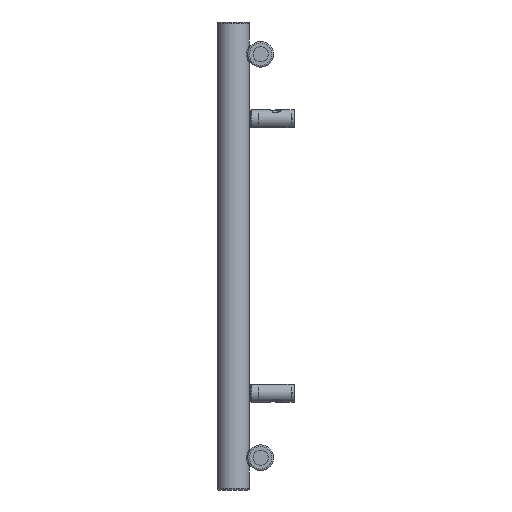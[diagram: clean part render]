
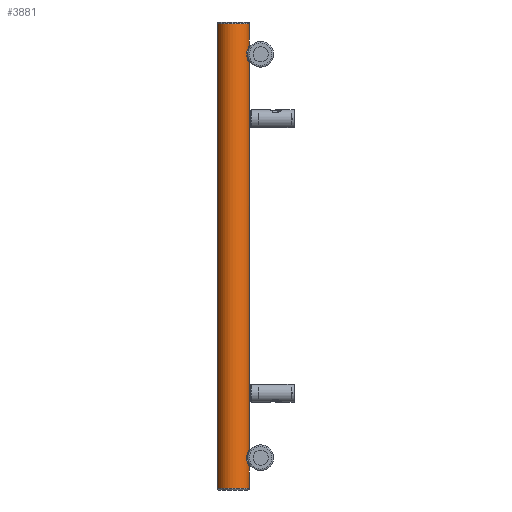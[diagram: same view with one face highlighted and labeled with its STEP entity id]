
A CAD part, left-side view. The second image highlights one B-rep face of the part: STEP entity #3881.
In plain terms, the highlighted cylindrical face has radius 20 mm (diameter 40 mm), a full revolution.
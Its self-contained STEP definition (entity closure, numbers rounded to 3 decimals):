
#296=FACE_BOUND('',#934,.T.);
#297=FACE_BOUND('',#935,.T.);
#349=LINE('',#10610,#442);
#442=VECTOR('',#4883,20.);
#535=CYLINDRICAL_SURFACE('',#4223,20.);
#608=FACE_OUTER_BOUND('',#933,.T.);
#933=EDGE_LOOP('',(#2858,#2859,#2860,#2861,#2862));
#934=EDGE_LOOP('',(#2863));
#935=EDGE_LOOP('',(#2864));
#1262=B_SPLINE_CURVE_WITH_KNOTS('',3,(#10585,#10586,#10587,#10588,#10589,
#10590,#10591,#10592,#10593,#10594,#10595,#10596,#10597,#10598,#10599,#10600,
#10601,#10602,#10603,#10604),.UNSPECIFIED.,.T.,.F.,(4,1,1,1,1,1,1,1,1,1,
1,1,1,1,1,1,1,4),(-5.132,-4.765,-4.399,
-4.154,-3.91,-3.666,-3.421,-3.177,
-2.933,-2.444,-2.199,-1.955,-1.711,
-1.466,-1.1,-0.733,-0.367,
0.),.UNSPECIFIED.);
#1263=B_SPLINE_CURVE_WITH_KNOTS('',3,(#10614,#10615,#10616,#10617,#10618,
#10619,#10620,#10621,#10622,#10623,#10624,#10625,#10626,#10627,#10628,#10629,
#10630,#10631),.UNSPECIFIED.,.T.,.F.,(4,1,1,1,1,1,1,1,1,1,1,1,1,1,1,4),
(-5.132,-4.765,-4.399,-3.91,
-3.666,-3.421,-3.177,-2.933,
-2.444,-2.199,-1.955,-1.466,-1.1,
-0.733,-0.367,0.),.UNSPECIFIED.);
#1379=CIRCLE('',#4224,20.);
#1380=CIRCLE('',#4225,20.);
#1381=CIRCLE('',#4226,20.);
#1763=VERTEX_POINT('',#10583);
#1764=VERTEX_POINT('',#10606);
#1765=VERTEX_POINT('',#10607);
#1766=VERTEX_POINT('',#10609);
#1767=VERTEX_POINT('',#10613);
#2193=EDGE_CURVE('',#1763,#1763,#1262,.T.);
#2194=EDGE_CURVE('',#1764,#1765,#1379,.T.);
#2195=EDGE_CURVE('',#1764,#1766,#349,.T.);
#2196=EDGE_CURVE('',#1766,#1766,#1380,.T.);
#2197=EDGE_CURVE('',#1765,#1764,#1381,.T.);
#2198=EDGE_CURVE('',#1767,#1767,#1263,.T.);
#2858=ORIENTED_EDGE('',*,*,#2194,.F.);
#2859=ORIENTED_EDGE('',*,*,#2195,.T.);
#2860=ORIENTED_EDGE('',*,*,#2196,.F.);
#2861=ORIENTED_EDGE('',*,*,#2195,.F.);
#2862=ORIENTED_EDGE('',*,*,#2197,.F.);
#2863=ORIENTED_EDGE('',*,*,#2198,.F.);
#2864=ORIENTED_EDGE('',*,*,#2193,.F.);
#3881=ADVANCED_FACE('',(#608,#296,#297),#535,.T.);
#4223=AXIS2_PLACEMENT_3D('',#10605,#4879,#4880);
#4224=AXIS2_PLACEMENT_3D('',#10608,#4881,#4882);
#4225=AXIS2_PLACEMENT_3D('',#10611,#4884,#4885);
#4226=AXIS2_PLACEMENT_3D('',#10612,#4886,#4887);
#4879=DIRECTION('center_axis',(0.,0.,1.));
#4880=DIRECTION('ref_axis',(-1.,0.,0.));
#4881=DIRECTION('center_axis',(0.,0.,1.));
#4882=DIRECTION('ref_axis',(-1.,0.,0.));
#4883=DIRECTION('',(0.,0.,-1.));
#4884=DIRECTION('center_axis',(0.,0.,-1.));
#4885=DIRECTION('ref_axis',(-1.,0.,0.));
#4886=DIRECTION('center_axis',(0.,0.,1.));
#4887=DIRECTION('ref_axis',(-1.,0.,0.));
#10583=CARTESIAN_POINT('',(-1155.,-20.,50.1));
#10585=CARTESIAN_POINT('Ctrl Pts',(-1155.,-20.,50.1));
#10586=CARTESIAN_POINT('Ctrl Pts',(-1156.611,-20.,50.1));
#10587=CARTESIAN_POINT('Ctrl Pts',(-1159.838,-19.598,
49.588));
#10588=CARTESIAN_POINT('Ctrl Pts',(-1163.412,-18.224,47.308));
#10589=CARTESIAN_POINT('Ctrl Pts',(-1165.38,-17.113,
44.116));
#10590=CARTESIAN_POINT('Ctrl Pts',(-1166.115,-16.627,
40.853));
#10591=CARTESIAN_POINT('Ctrl Pts',(-1165.87,-16.794,
37.475));
#10592=CARTESIAN_POINT('Ctrl Pts',(-1164.649,-17.556,
34.43));
#10593=CARTESIAN_POINT('Ctrl Pts',(-1162.535,-18.59,32.082));
#10594=CARTESIAN_POINT('Ctrl Pts',(-1158.836,-19.821,
30.088));
#10595=CARTESIAN_POINT('Ctrl Pts',(-1154.419,-20.203,
29.641));
#10596=CARTESIAN_POINT('Ctrl Pts',(-1150.24,-19.504,30.58));
#10597=CARTESIAN_POINT('Ctrl Pts',(-1147.467,-18.593,32.084));
#10598=CARTESIAN_POINT('Ctrl Pts',(-1145.351,-17.554,
34.428));
#10599=CARTESIAN_POINT('Ctrl Pts',(-1143.928,-16.664,
37.98));
#10600=CARTESIAN_POINT('Ctrl Pts',(-1143.923,-16.659,
42.598));
#10601=CARTESIAN_POINT('Ctrl Pts',(-1146.135,-18.048,
47.029));
#10602=CARTESIAN_POINT('Ctrl Pts',(-1150.165,-19.6,49.585));
#10603=CARTESIAN_POINT('Ctrl Pts',(-1153.389,-20.,50.1));
#10604=CARTESIAN_POINT('Ctrl Pts',(-1155.,-20.,50.1));
#10605=CARTESIAN_POINT('Origin',(-1155.,0.,0.));
#10606=CARTESIAN_POINT('',(-1135.,0.,578.));
#10607=CARTESIAN_POINT('',(-1175.,0.,578.));
#10608=CARTESIAN_POINT('Origin',(-1155.,0.,578.));
#10609=CARTESIAN_POINT('',(-1135.,0.,2.));
#10610=CARTESIAN_POINT('',(-1135.,0.,0.));
#10611=CARTESIAN_POINT('Origin',(-1155.,0.,2.));
#10612=CARTESIAN_POINT('Origin',(-1155.,0.,578.));
#10613=CARTESIAN_POINT('',(-1155.,-20.,550.1));
#10614=CARTESIAN_POINT('Ctrl Pts',(-1155.,-20.,550.1));
#10615=CARTESIAN_POINT('Ctrl Pts',(-1156.611,-20.,550.1));
#10616=CARTESIAN_POINT('Ctrl Pts',(-1159.83,-19.611,
549.58));
#10617=CARTESIAN_POINT('Ctrl Pts',(-1164.319,-17.859,
546.751));
#10618=CARTESIAN_POINT('Ctrl Pts',(-1166.21,-16.549,
541.99));
#10619=CARTESIAN_POINT('Ctrl Pts',(-1165.866,-16.8,
537.471));
#10620=CARTESIAN_POINT('Ctrl Pts',(-1164.651,-17.553,
534.431));
#10621=CARTESIAN_POINT('Ctrl Pts',(-1162.534,-18.59,
532.081));
#10622=CARTESIAN_POINT('Ctrl Pts',(-1158.838,-19.82,
530.089));
#10623=CARTESIAN_POINT('Ctrl Pts',(-1154.416,-20.202,
529.636));
#10624=CARTESIAN_POINT('Ctrl Pts',(-1150.244,-19.505,
530.585));
#10625=CARTESIAN_POINT('Ctrl Pts',(-1146.526,-18.282,532.562));
#10626=CARTESIAN_POINT('Ctrl Pts',(-1143.913,-16.657,
536.802));
#10627=CARTESIAN_POINT('Ctrl Pts',(-1143.931,-16.662,
542.609));
#10628=CARTESIAN_POINT('Ctrl Pts',(-1146.132,-18.046,
547.026));
#10629=CARTESIAN_POINT('Ctrl Pts',(-1150.167,-19.601,
549.588));
#10630=CARTESIAN_POINT('Ctrl Pts',(-1153.389,-20.,550.1));
#10631=CARTESIAN_POINT('Ctrl Pts',(-1155.,-20.,550.1));
